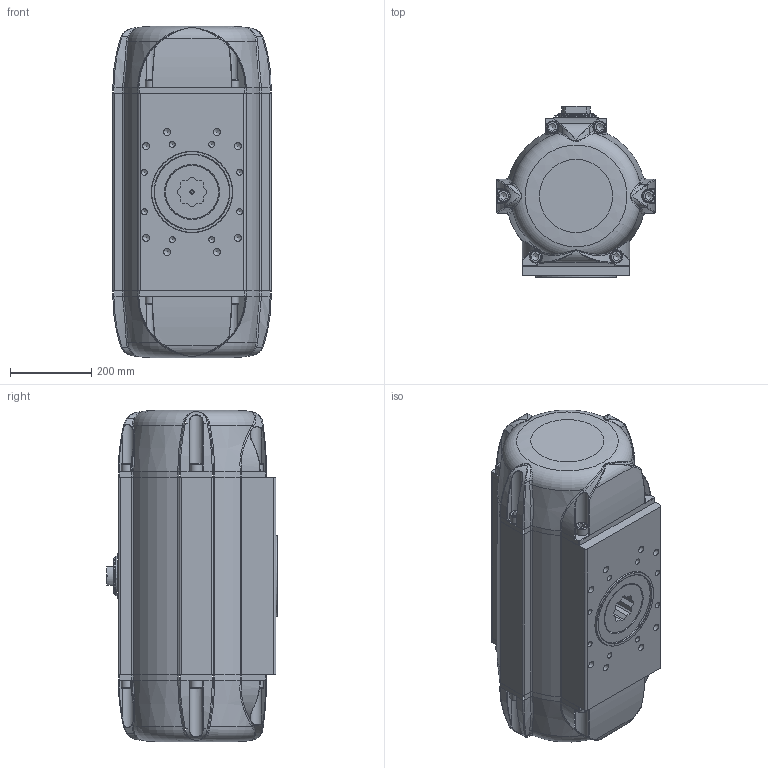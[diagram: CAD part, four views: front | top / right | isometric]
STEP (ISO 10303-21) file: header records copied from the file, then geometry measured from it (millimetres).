
FILE_DESCRIPTION((''),'2;1');
FILE_NAME('Z:\DOKUMENTATION ANTRIEBSPROGRAMM\Antriebe (neu)\BR16_SAD_SAF_90°\STEP-Dateien\50\SAF_50_BR16.stp','2017-06-20T15:57:13',('vmi'),(''),'Autodesk Inventor 2013','Autodesk Inventor 2013','');
FILE_SCHEMA(('AUTOMOTIVE_DESIGN { 1 0 10303 214 1 1 1 1 }'));
Length unit declared in the file: millimetre
Products named in the file (1): ENG-084395_Shrinkwrap_1
Bounding box: 390 x 423 x 817 mm (x, y, z)
Surface area: 1415061.3 mm2 (no closed solid volume)
Topology: 0 solids, 41 shells, 466 faces, 1669 edges, 1181 vertices
Faces by surface type: cylinder 156, plane 155, bspline 94, cone 44, torus 17
Full cylindrical faces by diameter (mm): 4.917 x3, 10 x1, 13.835 x2, 14.376 x8, 17.294 x8, 18.631 x2, 30 x12, 70 x1, 89.6 x1, 185.5 x1, 199.75 x1
Entity records: 22846 total; most frequent: CARTESIAN_POINT 9799, DIRECTION 2327, ORIENTED_EDGE 2263, EDGE_CURVE 1521, VERTEX_POINT 1139, AXIS2_PLACEMENT_3D 878, EDGE_LOOP 606, VECTOR 571
